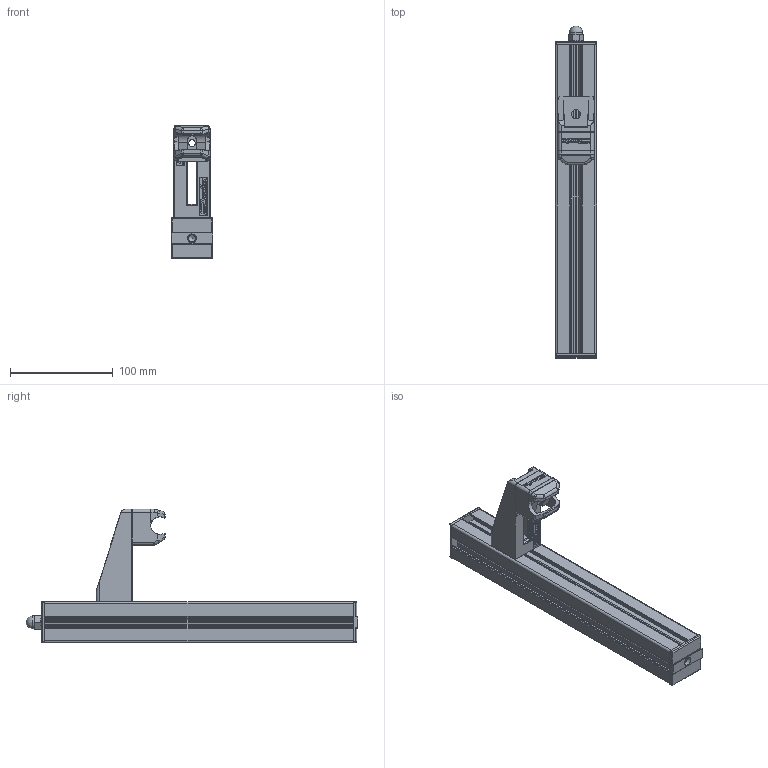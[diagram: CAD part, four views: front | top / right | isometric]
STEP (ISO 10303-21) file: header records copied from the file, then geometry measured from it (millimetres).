
FILE_DESCRIPTION(/* description */ (''),/* implementation_level */ '2;1');
FILE_NAME(/* name */ '\\carryline.intra\privat\users\mathias\Desktop\Tillfälliga filer\300-0880.stp',/* time_stamp */ '2018-11-30T08:28:58+01:00',/* author */ ('PL'),/* organization */ (''),/* preprocessor_version */ 'ST-DEVELOPER v17',/* originating_system */ 'Autodesk Inventor 2018',/* authorisation */ '');
FILE_SCHEMA (('AUTOMOTIVE_DESIGN { 1 0 10303 214 3 1 1 }'));
Length unit declared in the file: millimetre
Products named in the file (7): 300-0880; 300-1000; 300-2090; 100-2015; 100-1010-01; 100-2016; DIN 1587 - M8
Assembly tree (6 placements, depth 2):
  300-0880
    300-1000
    300-2090
    100-2015
    100-1010-01
    100-2016
    DIN 1587 - M8
Bounding box: 40 x 322.65 x 130.1 mm (x, y, z)
Volume: 230167 mm3; surface area: 187470.9 mm2
Topology: 8 solids, 8 shells, 1194 faces, 3005 edges, 1809 vertices
Faces by surface type: plane 622, cylinder 377, bspline 70, sphere 67, torus 49, cone 9
Full cylindrical faces by diameter (mm): 5.1 x8, 6.647 x2, 8.5 x3, 9 x1, 12.5 x1
Entity records: 37332 total; most frequent: CARTESIAN_POINT 8183, DIRECTION 5991, ORIENTED_EDGE 5840, EDGE_CURVE 2920, AXIS2_PLACEMENT_3D 2014, LINE 1963, VECTOR 1963, VERTEX_POINT 1809
